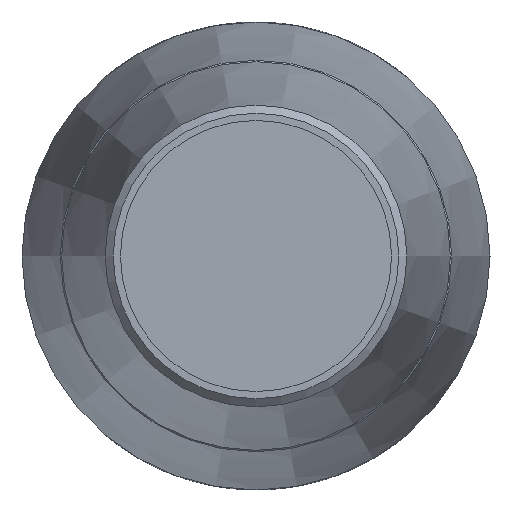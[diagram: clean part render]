
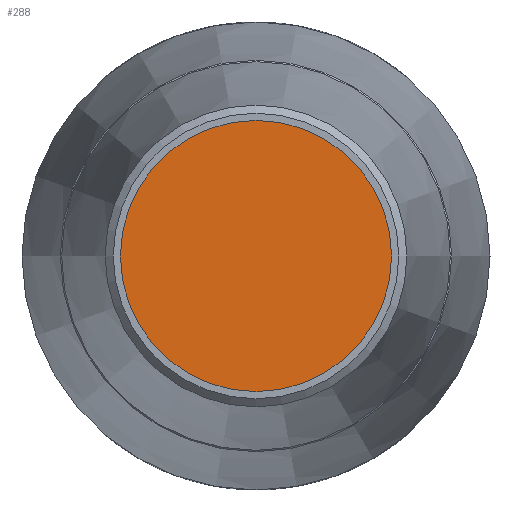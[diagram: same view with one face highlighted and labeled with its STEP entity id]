
A CAD part, left-side view. The second image highlights one B-rep face of the part: STEP entity #288.
In plain terms, the highlighted planar face has unit normal (-1, 0, 0).
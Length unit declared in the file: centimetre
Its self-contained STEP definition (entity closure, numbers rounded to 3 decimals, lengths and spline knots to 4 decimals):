
#42=PLANE('',#323);
#73=FACE_OUTER_BOUND('',#104,.T.);
#104=EDGE_LOOP('',(#210));
#132=CIRCLE('',#322,3.65);
#148=VERTEX_POINT('',#455);
#172=EDGE_CURVE('',#148,#148,#132,.T.);
#210=ORIENTED_EDGE('',*,*,#172,.T.);
#288=ADVANCED_FACE('',(#73),#42,.T.);
#322=AXIS2_PLACEMENT_3D('',#456,#383,#384);
#323=AXIS2_PLACEMENT_3D('',#457,#385,#386);
#383=DIRECTION('center_axis',(-1.,0.,0.));
#384=DIRECTION('ref_axis',(0.,0.,1.));
#385=DIRECTION('center_axis',(-1.,0.,0.));
#386=DIRECTION('ref_axis',(0.,0.,1.));
#455=CARTESIAN_POINT('',(-34.2,-3.65,0.));
#456=CARTESIAN_POINT('Origin',(-34.2,0.,0.));
#457=CARTESIAN_POINT('Origin',(-34.2,0.,0.));
